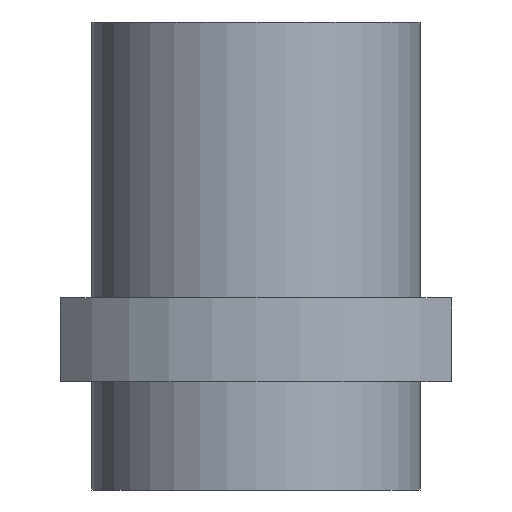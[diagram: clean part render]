
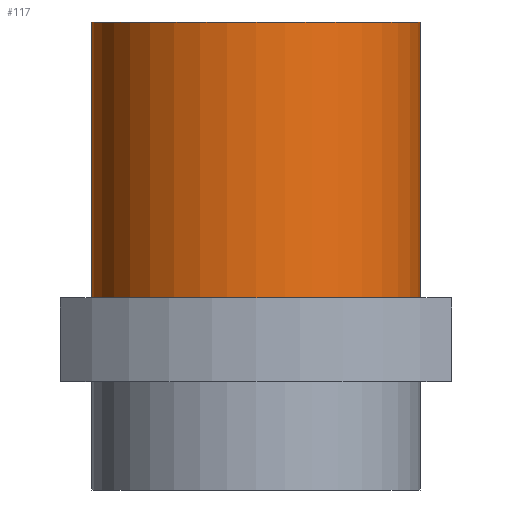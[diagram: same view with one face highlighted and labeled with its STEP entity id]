
A CAD part, front view. The second image highlights one B-rep face of the part: STEP entity #117.
In plain terms, the highlighted cylindrical face has radius 23.5 mm (diameter 47 mm), a full revolution.
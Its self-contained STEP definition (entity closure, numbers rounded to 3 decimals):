
#117=ADVANCED_FACE('',(#202,#203),#130,.T.);
#130=CYLINDRICAL_SURFACE('',#403,23.5);
#155=CIRCLE('',#388,23.5);
#159=CIRCLE('',#402,23.5);
#202=FACE_BOUND('',#242,.T.);
#203=FACE_BOUND('',#243,.T.);
#242=EDGE_LOOP('',(#302));
#243=EDGE_LOOP('',(#303));
#302=ORIENTED_EDGE('',*,*,#359,.T.);
#303=ORIENTED_EDGE('',*,*,#365,.F.);
#331=VERTEX_POINT('',#596);
#335=VERTEX_POINT('',#616);
#359=EDGE_CURVE('',#331,#331,#155,.T.);
#365=EDGE_CURVE('',#335,#335,#159,.T.);
#388=AXIS2_PLACEMENT_3D('',#595,#450,#451);
#402=AXIS2_PLACEMENT_3D('',#615,#480,#481);
#403=AXIS2_PLACEMENT_3D('',#617,#482,#483);
#450=DIRECTION('',(0.,0.,1.));
#451=DIRECTION('',(1.,0.,0.));
#480=DIRECTION('',(0.,0.,1.));
#481=DIRECTION('',(1.,0.,0.));
#482=DIRECTION('',(0.,0.,-1.));
#483=DIRECTION('',(-1.,0.,0.));
#595=CARTESIAN_POINT('',(0.,0.,27.5));
#596=CARTESIAN_POINT('',(23.5,0.,27.5));
#615=CARTESIAN_POINT('',(0.,0.,67.));
#616=CARTESIAN_POINT('',(23.5,0.,67.));
#617=CARTESIAN_POINT('',(0.,0.,67.));
